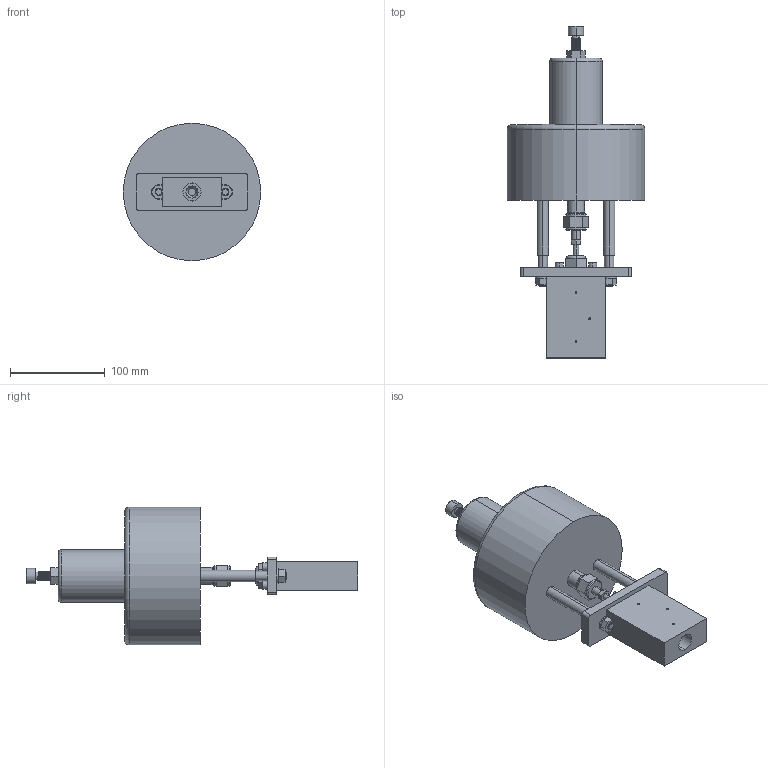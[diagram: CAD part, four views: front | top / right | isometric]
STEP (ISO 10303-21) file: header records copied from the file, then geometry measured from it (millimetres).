
FILE_DESCRIPTION (( 'STEP AP203' ), '1' );
FILE_NAME ('AOV20CV09-A.STEP', '2020-12-23T23:40:05', ( '' ), ( '' ), 'SwSTEP 2.0', 'SolidWorks 2018', '' );
FILE_SCHEMA (( 'CONFIG_CONTROL_DESIGN' ));
Length unit declared in the file: millimetre
Products named in the file (1): AOV20CV09-A
Bounding box: 145 x 350.3 x 145 mm (x, y, z)
Volume: 1717480.3 mm3; surface area: 123303.6 mm2
Topology: 1 solids, 1 shells, 247 faces, 625 edges, 404 vertices
Faces by surface type: plane 122, cylinder 98, bspline 11, cone 10, torus 6
Entity records: 20102 total; most frequent: CARTESIAN_POINT 14236, ORIENTED_EDGE 1250, DIRECTION 1149, EDGE_CURVE 625, VERTEX_POINT 404, AXIS2_PLACEMENT_3D 396, LINE 357, VECTOR 357
